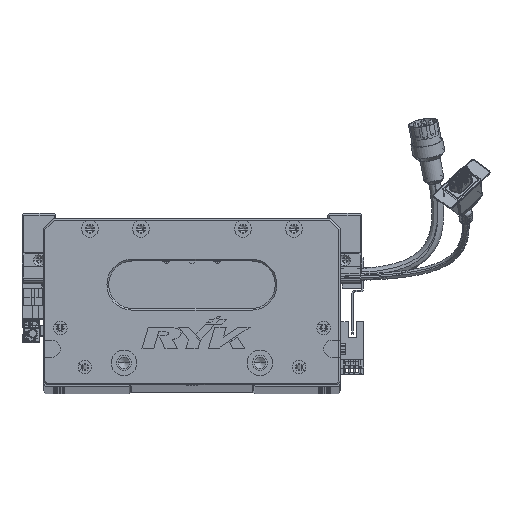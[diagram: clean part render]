
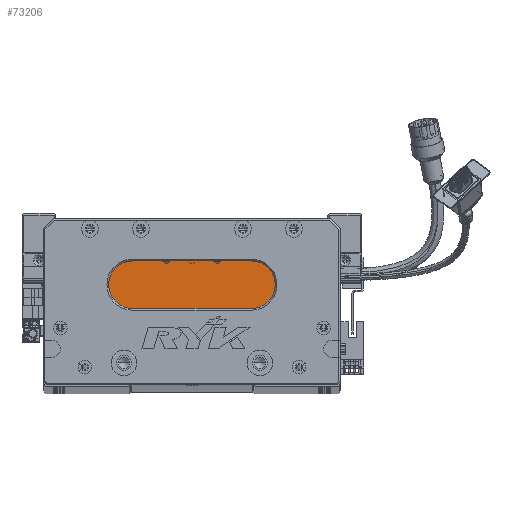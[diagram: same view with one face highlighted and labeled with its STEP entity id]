
A CAD part, top view. The second image highlights one B-rep face of the part: STEP entity #73206.
In plain terms, the highlighted planar face has unit normal (0, 0, 1) as drawn and (0, 0, -1) by its records, which use the part's own axes.
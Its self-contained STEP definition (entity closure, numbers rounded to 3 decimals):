
#1915 = AXIS2_PLACEMENT_3D ( 'NONE', #102560, #55687, #93654 ) ;
#3579 = CARTESIAN_POINT ( 'NONE',  ( 52.5, 59., 18. ) ) ;
#3999 = DIRECTION ( 'NONE',  ( 0., 0., -1. ) ) ;
#4496 = CIRCLE ( 'NONE', #82647, 14. ) ;
#12211 = LINE ( 'NONE', #97984, #94435 ) ;
#27068 = DIRECTION ( 'NONE',  ( 1., 0., 0. ) ) ;
#27852 = ORIENTED_EDGE ( 'NONE', *, *, #82104, .T. ) ;
#28510 = DIRECTION ( 'NONE',  ( 0., 0., -1. ) ) ;
#28978 = CARTESIAN_POINT ( 'NONE',  ( 122.5, 45., 18. ) ) ;
#29943 = CARTESIAN_POINT ( 'NONE',  ( 122.5, 73., 18. ) ) ;
#35709 = PLANE ( 'NONE',  #1915 ) ;
#36612 = CARTESIAN_POINT ( 'NONE',  ( 122.5, 59., 18. ) ) ;
#40565 = DIRECTION ( 'NONE',  ( 0., 0., -1. ) ) ;
#42698 = VERTEX_POINT ( 'NONE', #88841 ) ;
#45354 = VERTEX_POINT ( 'NONE', #28978 ) ;
#48780 = CIRCLE ( 'NONE', #82075, 14. ) ;
#53305 = ORIENTED_EDGE ( 'NONE', *, *, #122226, .T. ) ;
#55687 = DIRECTION ( 'NONE',  ( 0., 0., -1. ) ) ;
#62885 = VERTEX_POINT ( 'NONE', #29943 ) ;
#63506 = DIRECTION ( 'NONE',  ( -1., 0., 0. ) ) ;
#68017 = VERTEX_POINT ( 'NONE', #89121 ) ;
#72777 = EDGE_CURVE ( 'NONE', #42698, #98141, #4496, .T. ) ;
#73206 = ADVANCED_FACE ( 'NONE', ( #115748 ), #35709, .T. ) ;
#77990 = EDGE_CURVE ( 'NONE', #62885, #45354, #95390, .T. ) ;
#80592 = AXIS2_PLACEMENT_3D ( 'NONE', #36612, #28510, #126076 ) ;
#82075 = AXIS2_PLACEMENT_3D ( 'NONE', #3579, #3999, #63506 ) ;
#82104 = EDGE_CURVE ( 'NONE', #45354, #42698, #12211, .T. ) ;
#82647 = AXIS2_PLACEMENT_3D ( 'NONE', #98943, #40565, #89567 ) ;
#84600 = CARTESIAN_POINT ( 'NONE',  ( 38.5, 59., 18. ) ) ;
#84971 = CARTESIAN_POINT ( 'NONE',  ( 122.5, 73., 18. ) ) ;
#88841 = CARTESIAN_POINT ( 'NONE',  ( 52.5, 45., 18. ) ) ;
#89121 = CARTESIAN_POINT ( 'NONE',  ( 52.5, 73., 18. ) ) ;
#89567 = DIRECTION ( 'NONE',  ( -1., 0., 0. ) ) ;
#89588 = VECTOR ( 'NONE', #27068, 1000. ) ;
#93654 = DIRECTION ( 'NONE',  ( -1., 0., 0. ) ) ;
#94435 = VECTOR ( 'NONE', #116768, 1000. ) ;
#95390 = CIRCLE ( 'NONE', #80592, 14. ) ;
#96944 = EDGE_CURVE ( 'NONE', #98141, #68017, #48780, .T. ) ;
#97984 = CARTESIAN_POINT ( 'NONE',  ( 122.5, 45., 18. ) ) ;
#98141 = VERTEX_POINT ( 'NONE', #84600 ) ;
#98943 = CARTESIAN_POINT ( 'NONE',  ( 52.5, 59., 18. ) ) ;
#102129 = ORIENTED_EDGE ( 'NONE', *, *, #72777, .T. ) ;
#102560 = CARTESIAN_POINT ( 'NONE',  ( 122.5, 59., 18. ) ) ;
#109137 = ORIENTED_EDGE ( 'NONE', *, *, #96944, .T. ) ;
#115534 = LINE ( 'NONE', #84971, #89588 ) ;
#115748 = FACE_OUTER_BOUND ( 'NONE', #123893, .T. ) ;
#116768 = DIRECTION ( 'NONE',  ( -1., 0., 0. ) ) ;
#121590 = ORIENTED_EDGE ( 'NONE', *, *, #77990, .T. ) ;
#122226 = EDGE_CURVE ( 'NONE', #68017, #62885, #115534, .T. ) ;
#123893 = EDGE_LOOP ( 'NONE', ( #121590, #27852, #102129, #109137, #53305 ) ) ;
#126076 = DIRECTION ( 'NONE',  ( -1., 0., 0. ) ) ;
